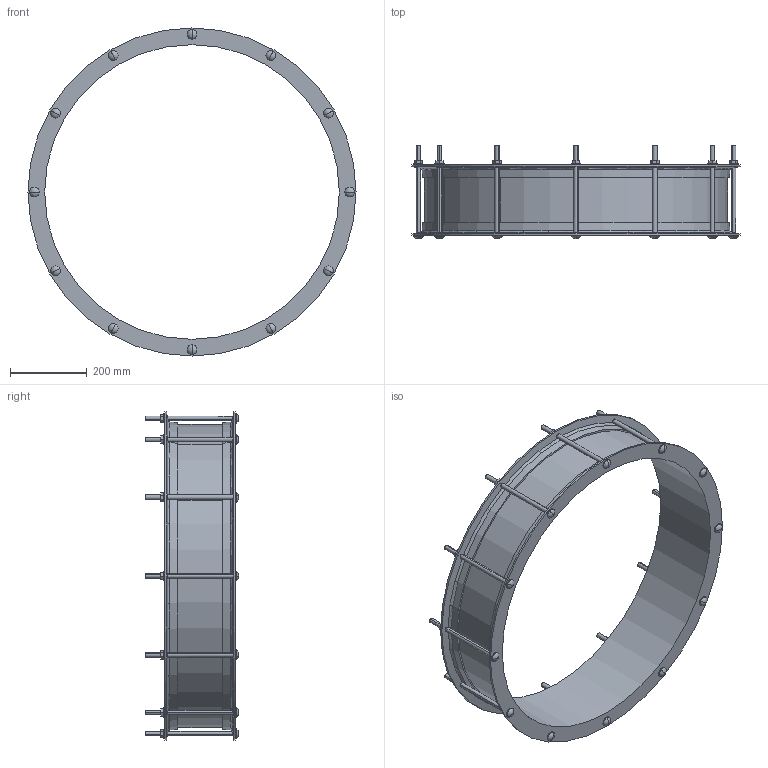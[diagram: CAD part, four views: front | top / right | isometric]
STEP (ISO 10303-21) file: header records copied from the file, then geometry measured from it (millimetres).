
FILE_DESCRIPTION((''),'2;1');
FILE_NAME('LO2_COUP_765','2018-12-06T',('mfairey'),('Glynwed Pipe Systems'),'CREO PARAMETRIC BY PTC INC, 2016130','CREO PARAMETRIC BY PTC INC, 2016130','');
FILE_SCHEMA(('CONFIG_CONTROL_DESIGN'));
Length unit declared in the file: millimetre
Products named in the file (1): LO2_COUP_765
Bounding box: 855.7 x 243.33 x 855.7 mm (x, y, z)
Volume: 7219273.4 mm3; surface area: 1369164 mm2
Topology: 1 solids, 1 shells, 252 faces, 676 edges, 428 vertices
Faces by surface type: plane 112, cylinder 104, sphere 24, cone 8, torus 4
Entity records: 9162 total; most frequent: CARTESIAN_POINT 2896, ORIENTED_EDGE 1304, DIRECTION 1272, EDGE_CURVE 652, AXIS2_PLACEMENT_3D 472, VERTEX_POINT 428, VECTOR 328, LINE 328
